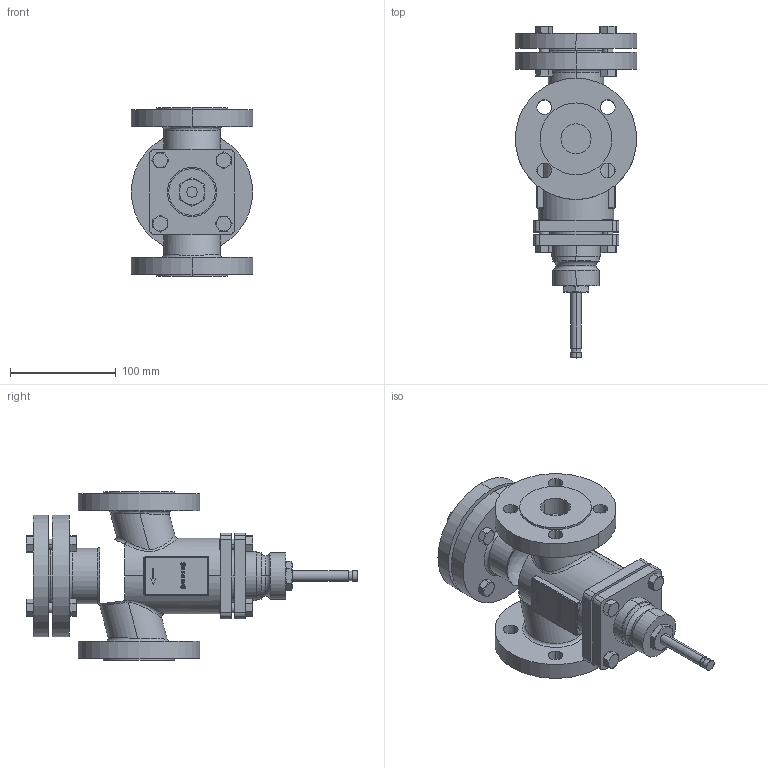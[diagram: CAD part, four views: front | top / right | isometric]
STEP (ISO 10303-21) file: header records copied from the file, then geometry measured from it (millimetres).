
FILE_DESCRIPTION((''),'2;1');
FILE_NAME('000191.stp','2006-10-04T17:26:05',(''),(''),'Mechanical Desktop 2006','Mechanical Desktop 2006',', , ');
FILE_SCHEMA(('AUTOMOTIVE_DESIGN { 1 2 10303 214 0 1 1 1 }'));
Length unit declared in the file: millimetre
Products named in the file (1): Product
Bounding box: 115 x 314.5 x 160 mm (x, y, z)
Volume: 1321833 mm3; surface area: 247644.3 mm2
Topology: 49 solids, 49 shells, 724 faces, 1833 edges, 1204 vertices
Faces by surface type: plane 301, cylinder 282, bspline 92, cone 36, sphere 9, torus 4
Entity records: 23429 total; most frequent: CARTESIAN_POINT 6257, ORIENTED_EDGE 3646, DIRECTION 3524, EDGE_CURVE 1823, AXIS2_PLACEMENT_3D 1307, VERTEX_POINT 1204, VECTOR 910, LINE 910
